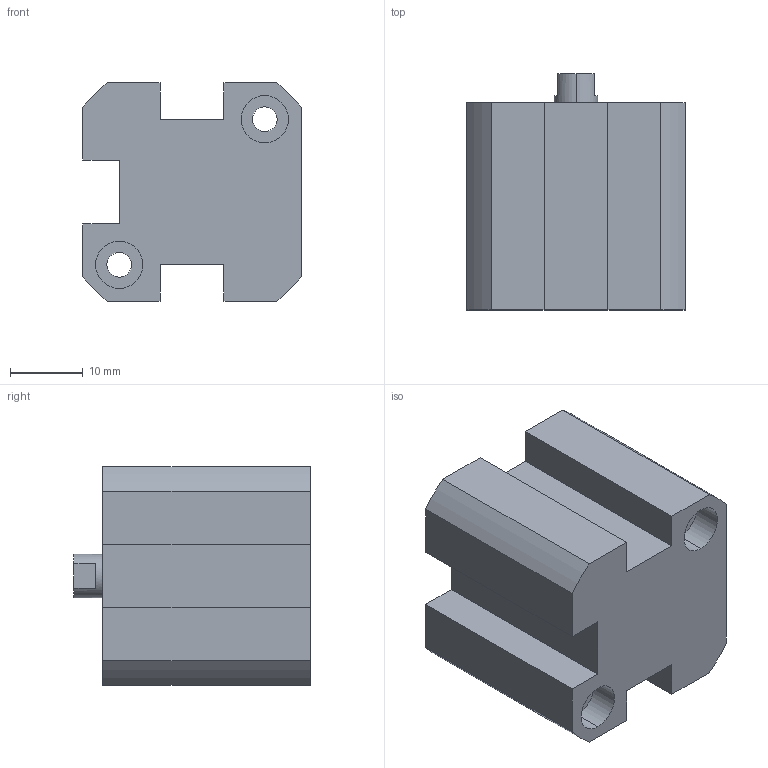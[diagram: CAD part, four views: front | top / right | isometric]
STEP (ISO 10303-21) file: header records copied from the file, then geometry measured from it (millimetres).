
FILE_DESCRIPTION (( 'STEP AP203' ), '1' );
FILE_NAME ('XC#2-16-10.STEP', '2016-05-23T08:00:31', ( '' ), ( '' ), 'SwSTEP 2.0', 'SolidWorks 2014', '' );
FILE_SCHEMA (( 'CONFIG_CONTROL_DESIGN' ));
Length unit declared in the file: millimetre
Products named in the file (1): XC#2-16-10
Bounding box: 30 x 32.5 x 30 mm (x, y, z)
Volume: 19813.4 mm3; surface area: 6920.7 mm2
Topology: 1 solids, 1 shells, 77 faces, 191 edges, 122 vertices
Faces by surface type: cylinder 39, plane 32, cone 6
Entity records: 2355 total; most frequent: DIRECTION 424, CARTESIAN_POINT 385, ORIENTED_EDGE 370, EDGE_CURVE 185, AXIS2_PLACEMENT_3D 161, VERTEX_POINT 122, VECTOR 102, LINE 102
